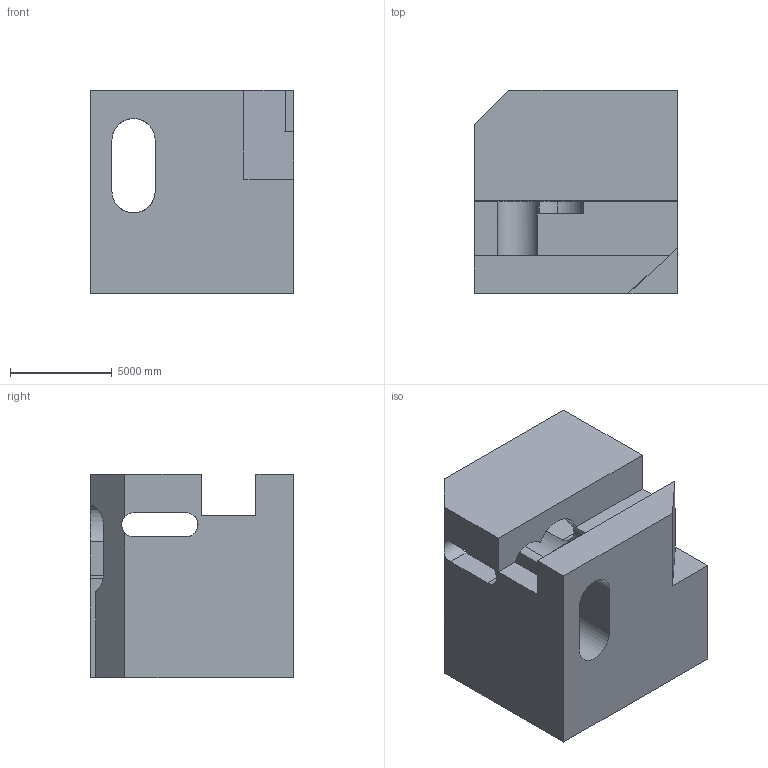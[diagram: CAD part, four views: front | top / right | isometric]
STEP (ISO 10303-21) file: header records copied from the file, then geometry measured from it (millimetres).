
FILE_DESCRIPTION (( 'STEP AP203' ), '1' );
FILE_NAME ('681.STEP', '2022-07-29T12:29:48', ( 'user' ), ( '' ), 'SwSTEP 2.0', 'SolidWorks 2021', '' );
FILE_SCHEMA (( 'CONFIG_CONTROL_DESIGN' ));
Length unit declared in the file: centimetre
Products named in the file (1): 681
Bounding box: 10000 x 10000 x 10000 mm (x, y, z)
Volume: 743199594662.6 mm3; surface area: 762228949.7 mm2
Topology: 1 solids, 1 shells, 36 faces, 117 edges, 78 vertices
Faces by surface type: plane 25, cylinder 11
Entity records: 1714 total; most frequent: CARTESIAN_POINT 583, ORIENTED_EDGE 234, DIRECTION 210, EDGE_CURVE 117, VECTOR 84, LINE 84, VERTEX_POINT 78, AXIS2_PLACEMENT_3D 63
